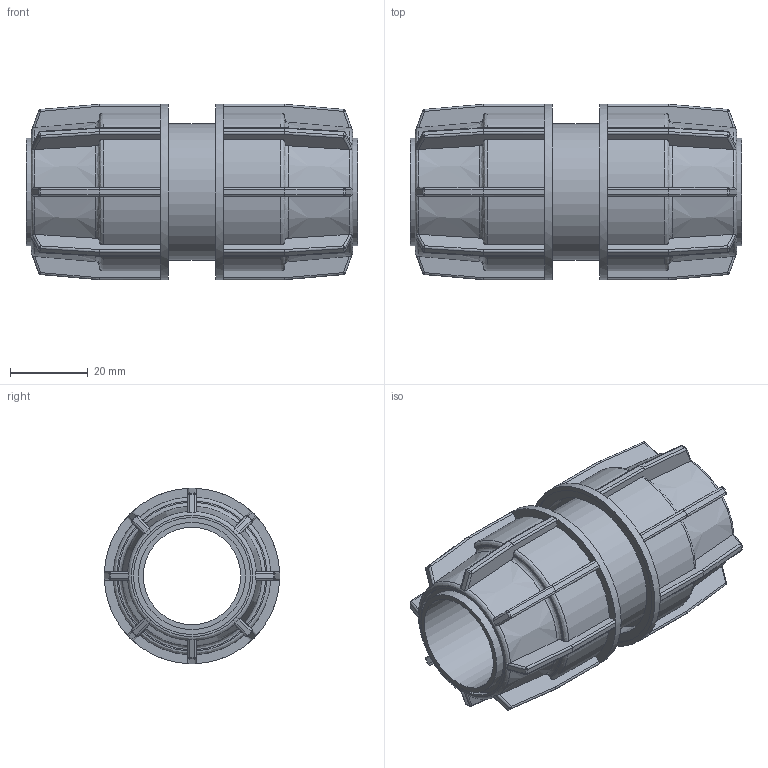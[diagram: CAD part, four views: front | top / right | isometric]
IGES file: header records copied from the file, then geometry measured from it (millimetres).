
Global section: file name: 040107025.ipt; native system: Autodesk Inventor 2015; preprocessor: unknown; author: KIM; date: 20180409.130619; units: millimetre
Bounding box: 85 x 45 x 45 mm (x, y, z)
Volume: 52397 mm3; surface area: 25320.8 mm2
Topology: 1 solids, 1 shells, 522 faces, 1251 edges, 721 vertices
Faces by surface type: plane 236, cylinder 149, sphere 64, revolution 41, bspline 16, cone 16
Full cylindrical faces by diameter (mm): 27.5 x2, 35 x1, 45 x2
